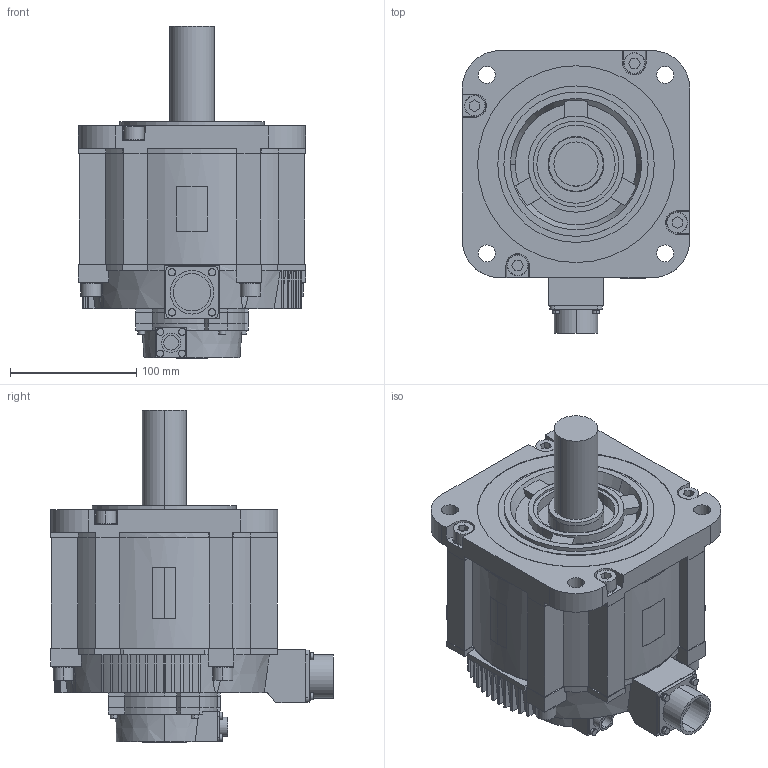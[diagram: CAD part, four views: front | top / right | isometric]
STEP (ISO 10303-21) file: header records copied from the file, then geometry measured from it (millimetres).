
FILE_DESCRIPTION (( 'STEP AP203' ), '1' );
FILE_NAME ('sgm7g_44__a21.STEP', '2014-05-07T05:09:07', ( '匠エンジニアリング山之内' ), ( 'TAKUMI-Engniaring' ), 'SwSTEP 2.0', 'SolidWorks 2006303', '' );
FILE_SCHEMA (( 'CONFIG_CONTROL_DESIGN' ));
Length unit declared in the file: millimetre
Products named in the file (1): sgm7g_44__a21
Bounding box: 180 x 223.85 x 263.1 mm (x, y, z)
Volume: 4121008.6 mm3; surface area: 231486 mm2
Topology: 1 solids, 1 shells, 715 faces, 1889 edges, 1252 vertices
Faces by surface type: plane 432, cylinder 223, cone 60
Entity records: 22635 total; most frequent: CARTESIAN_POINT 4388, DIRECTION 3827, ORIENTED_EDGE 3778, EDGE_CURVE 1889, AXIS2_PLACEMENT_3D 1324, VERTEX_POINT 1252, VECTOR 1179, LINE 1179
